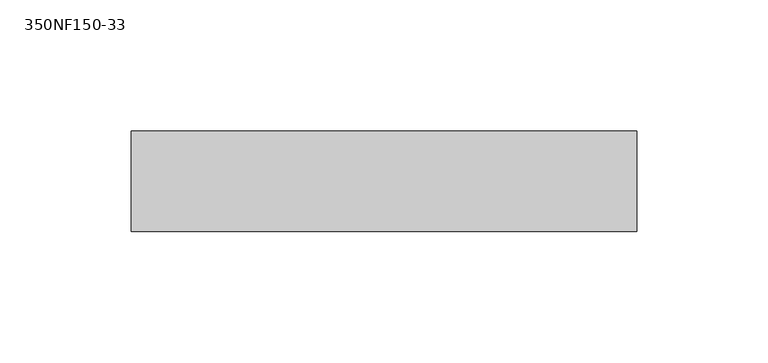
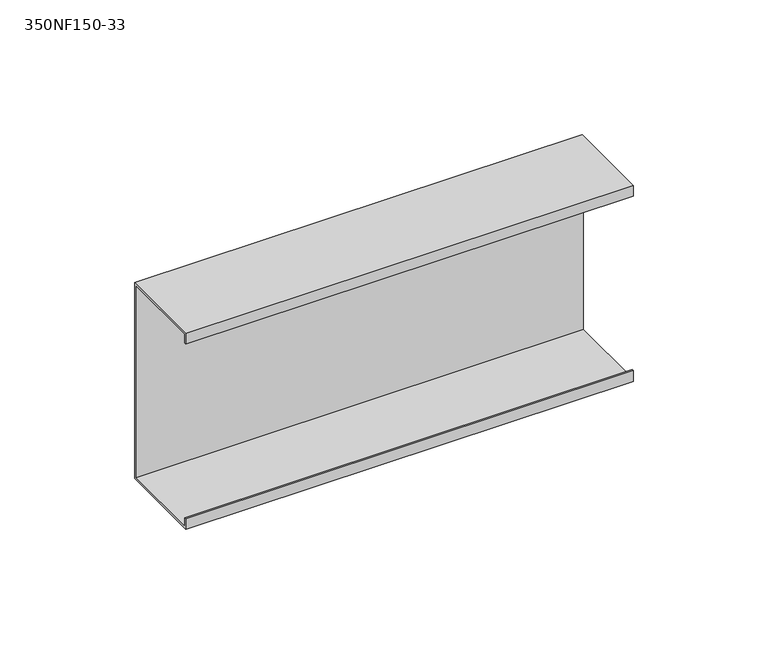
"""IFC4 building model written with IfcOpenShell, lengths in millimetres: beam geometry, BIMSF-SSMA-S : 350NF150-33."""

from ifc_helpers import new_model, si_unit, frame, origin, place, context, project, spatial, polyline, outline, extrude, source, transform, mapped, element, save


def beam_350nf150_33_3c5b6d2f(model_context):
    return source(origin(), model_context, "Body", "SweptSolid", [
        extrude(outline(polyline([(19.05, 44.45), (19.05, -44.45), (-19.05, -44.45), (-19.05, -39.6748), (-18.1676842, -39.6748), (-18.1676842, -43.5676842), (18.1676842, -43.5676842), (18.1676842, 43.5676842), (-18.1676842, 43.5676842), (-18.1676842, 39.6748), (-19.05, 39.6748), (-19.05, 44.45), (19.05, 44.45)])), frame((-96.0150586, 0.0, 0.0), z_axis=(1.0, 0.0, 0.0), x_axis=(0.0, 1.0, 0.0)), (0.0, 0.0, 1.0), 192.0301172),
    ])


if __name__ == "__main__":
    model = new_model("IFC4")
    model_context = context("Model", 3, world=origin())
    ifc_project = project(units=[si_unit("LENGTHUNIT", "METRE", prefix="MILLI")], contexts=[model_context])
    site = spatial("IfcSite", under=ifc_project)
    building = spatial("IfcBuilding", under=site)
    placement = place(None, origin())
    beam_350nf150_33_shape = beam_350nf150_33_3c5b6d2f(model_context)
    element("IfcBeam", 1, ObjectType="BIMSF-SSMA-S : 350NF150-33", at=placement, inside=building, context=model_context, shape_type="MappedRepresentation", body=[
        mapped(beam_350nf150_33_shape, transform((0.0, 0.0, 0.0), x_axis=(1.0, 0.0, 0.0), y_axis=(0.0, 1.0, 0.0), z_axis=(0.0, 0.0, 1.0))),
    ])
    save(model, "model.ifc")
